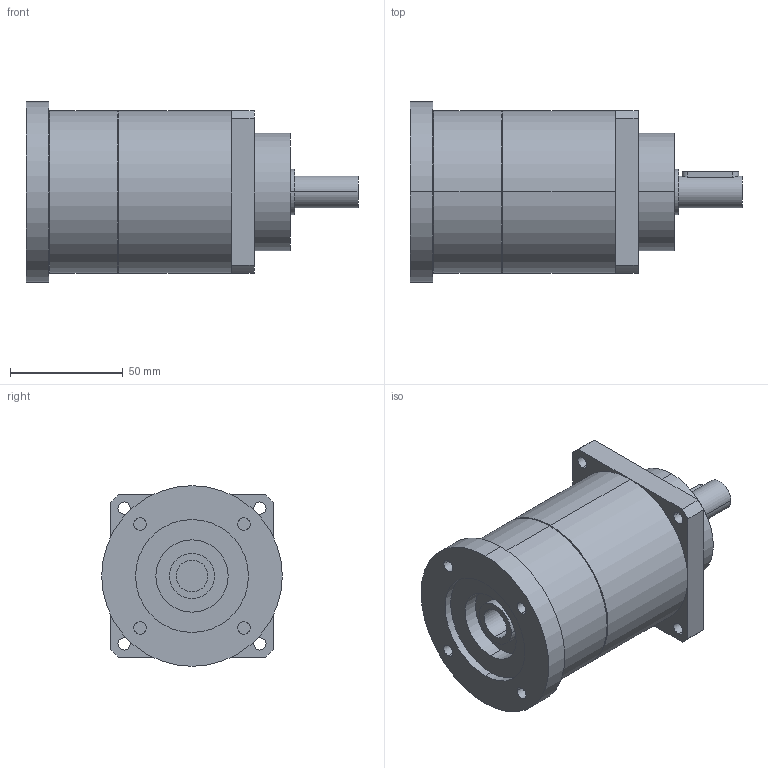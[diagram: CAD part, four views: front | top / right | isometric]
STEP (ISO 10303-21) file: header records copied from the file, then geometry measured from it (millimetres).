
FILE_DESCRIPTION(('CoCreate Modeling STEP Export'),'2;1');
FILE_NAME('GPT75_ig-9-12-16-20-25-28-35-40-50-70-100_14_B5T_14_P13.stp','2014-08-27T13:37:52',(''),(''),'CoCreate Modeling STEP processor for AP214 (Solid Model)','CoCreate Modeling 16.00C 25-Feb-2009 (C) Parametric Technology GmbH','');
FILE_SCHEMA(('AUTOMOTIVE_DESIGN { 1 0 10303 214 1 1 1 1 }'));
Length unit declared in the file: millimetre
Products named in the file (2): GPT75_ig-9-12-16-20-25-28-35-40-50-70-100_14_B5T_14_P13
Assembly tree (1 placements, depth 2):
  GPT75_ig-9-12-16-20-25-28-35-40-50-70-100_14_B5T_14_P13
    GPT75_ig-9-12-16-20-25-28-35-40-50-70-100_14_B5T_14_P13
Bounding box: 147 x 80 x 80 mm (x, y, z)
Volume: 452716.5 mm3; surface area: 44493.1 mm2
Topology: 1 solids, 1 shells, 75 faces, 178 edges, 119 vertices
Faces by surface type: cylinder 44, plane 27, cone 4
Entity records: 2281 total; most frequent: CARTESIAN_POINT 682, ORIENTED_EDGE 356, DIRECTION 280, EDGE_CURVE 178, VERTEX_POINT 119, AXIS2_PLACEMENT_3D 105, EDGE_LOOP 97, FACE_OUTER_BOUND 75
